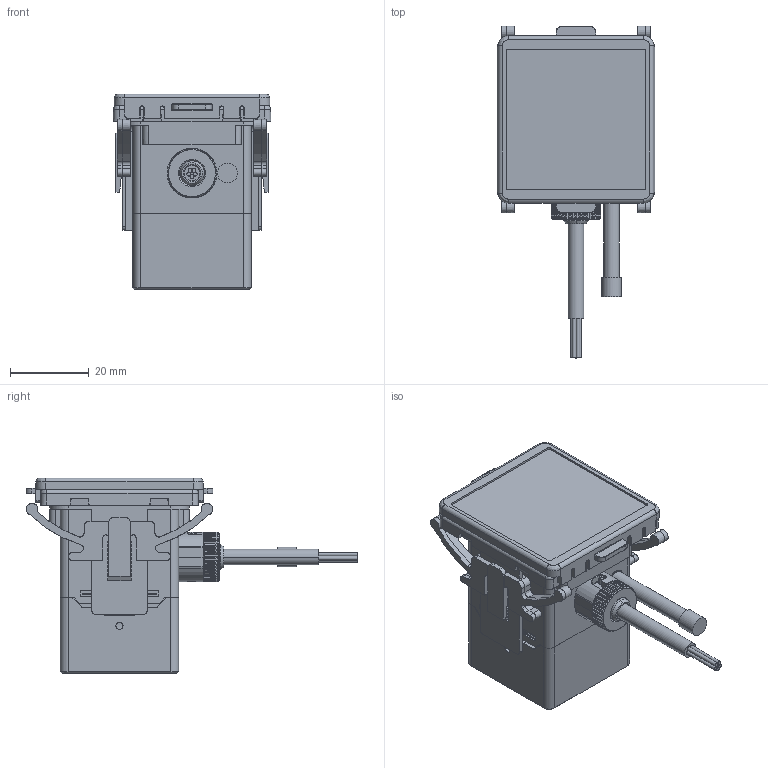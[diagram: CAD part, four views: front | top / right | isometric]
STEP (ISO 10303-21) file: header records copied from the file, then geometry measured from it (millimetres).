
FILE_DESCRIPTION((''),'2;1');
FILE_NAME('KDS_PA-F_ASM','2019-07-03T',('Stark'),(''),'CREO PARAMETRIC BY PTC INC, 2014500','CREO PARAMETRIC BY PTC INC, 2014500','');
FILE_SCHEMA(('CONFIG_CONTROL_DESIGN'));
Products named in the file (3): KDS_PA-E; PA-F; KDS_PA-F_ASM
Assembly tree (2 placements, depth 2):
  KDS_PA-F_ASM
    KDS_PA-E
    PA-F
Bounding box: 40 x 84.2 x 49.7 mm (x, y, z)
Volume: 51319.7 mm3; surface area: 22118.2 mm2
Topology: 2 solids, 2 shells, 1594 faces, 4272 edges, 2709 vertices
Faces by surface type: plane 738, cylinder 438, cone 204, bspline 168, torus 20, sphere 16, extrusion 10
Entity records: 65571 total; most frequent: CARTESIAN_POINT 28388, ORIENTED_EDGE 8540, DIRECTION 6535, EDGE_CURVE 4270, VERTEX_POINT 2709, VECTOR 2199, LINE 2189, AXIS2_PLACEMENT_3D 2168
